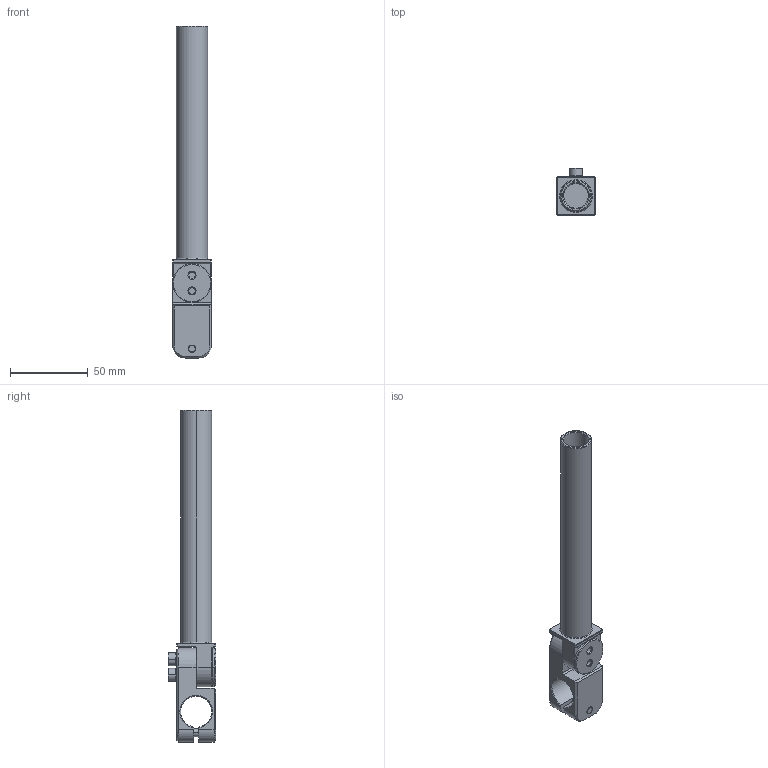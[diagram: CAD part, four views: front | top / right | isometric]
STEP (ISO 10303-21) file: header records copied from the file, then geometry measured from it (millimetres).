
FILE_DESCRIPTION (( 'STEP AP214' ), '1' );
FILE_NAME ('SEAH-2020L150T.STEP', '2023-01-31T01:18:45', ( 'Windows User' ), ( 'P R C' ), 'SwSTEP 2.0', 'SolidWorks 2019', '' );
FILE_SCHEMA (( 'AUTOMOTIVE_DESIGN' ));
Length unit declared in the file: millimetre
Products named in the file (6): SEAH-2020L150T; SEAH-2020L150.2; SEAH-2020L150.3; PTS-M5; SEAH-2020L150.1; PTC-M5L20
Assembly tree (9 placements, depth 2):
  SEAH-2020L150T
    SEAH-2020L150.1
    SEAH-2020L150.2
    SEAH-2020L150.3
    PTC-M5L20  x3
    PTS-M5  x3
Bounding box: 25 x 30.5 x 213.7 mm (x, y, z)
Volume: 48229.3 mm3; surface area: 31046.7 mm2
Topology: 9 solids, 9 shells, 694 faces, 1922 edges, 1249 vertices
Faces by surface type: plane 574, cone 61, cylinder 57, bspline 2
Entity records: 10574 total; most frequent: CARTESIAN_POINT 2034, DIRECTION 1814, ORIENTED_EDGE 1708, EDGE_CURVE 854, AXIS2_PLACEMENT_3D 633, VECTOR 548, LINE 548, VERTEX_POINT 541
